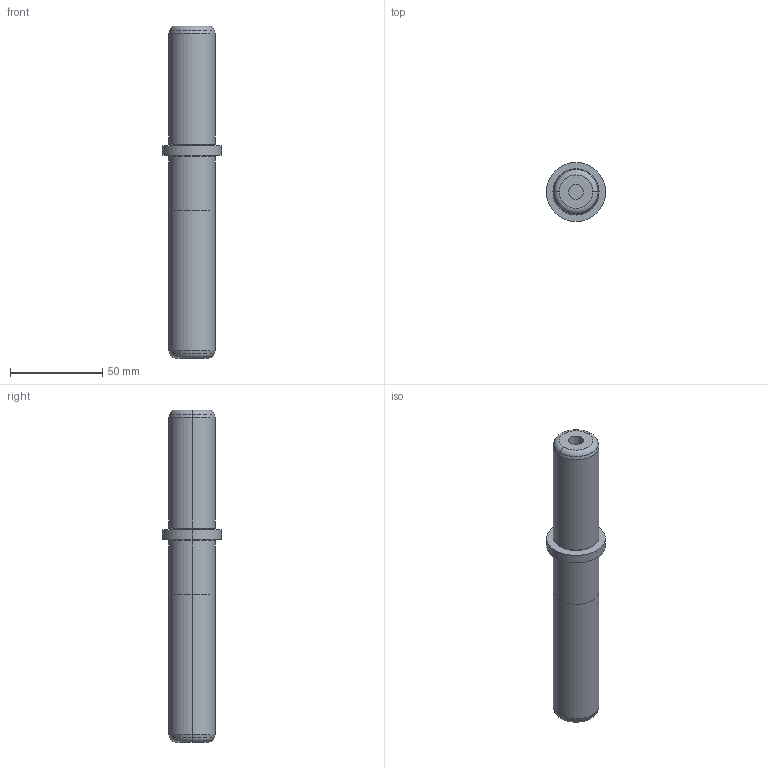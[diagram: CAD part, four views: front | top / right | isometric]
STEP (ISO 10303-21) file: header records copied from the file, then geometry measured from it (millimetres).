
FILE_DESCRIPTION(/* description */ (''),/* implementation_level */ '2;1');
FILE_NAME(/* name */ '3d_sgpwh25-110-70-b30_05316_r00.stp',/* time_stamp */ '2011-01-10T14:11:01+09:00',/* author */ ('MISUMI'),/* organization */ (''),/* preprocessor_version */ 'ST-DEVELOPER v11',/* originating_system */ 'UGS - NX 5.0',/* authorisation */ '');
FILE_SCHEMA (('CONFIG_CONTROL_DESIGN'));
Length unit declared in the file: millimetre
Products named in the file (1): 3d_sgpwh25-110-70-b30_05316_r00
Bounding box: 32 x 32 x 180 mm (x, y, z)
Volume: 86866.2 mm3; surface area: 17050.1 mm2
Topology: 1 solids, 1 shells, 30 faces, 58 edges, 34 vertices
Faces by surface type: cylinder 12, cone 8, plane 6, torus 4
Entity records: 854 total; most frequent: DIRECTION 158, CARTESIAN_POINT 123, ORIENTED_EDGE 116, AXIS2_PLACEMENT_3D 69, EDGE_CURVE 58, CIRCLE 38, EDGE_LOOP 34, VERTEX_POINT 34
